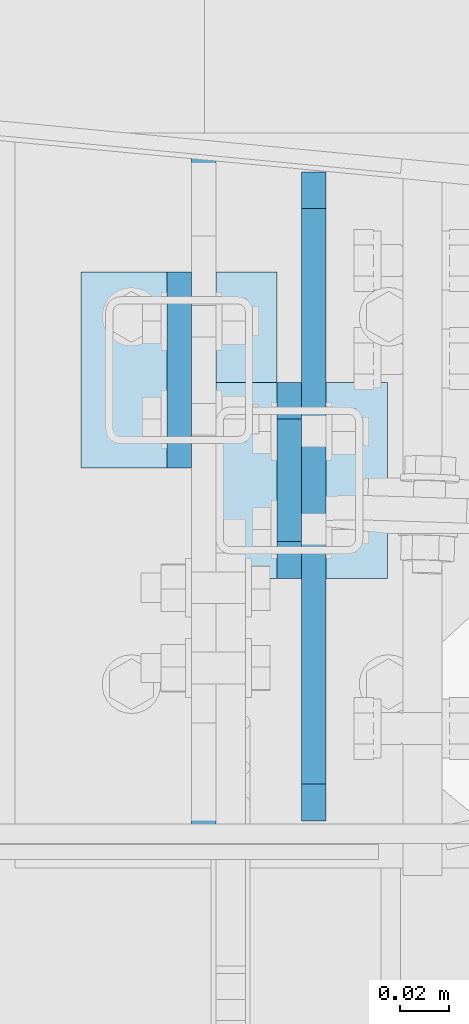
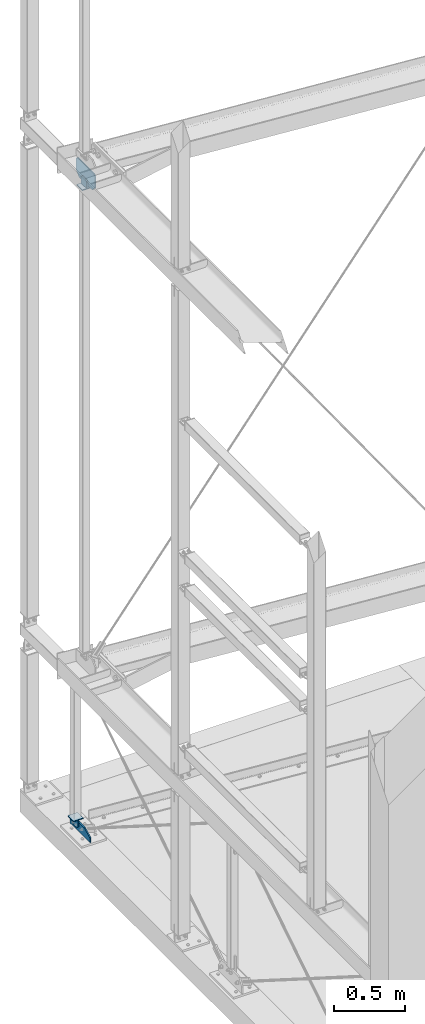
# One storey, part 140 of 271: 6 plates, 4 elements without a shape of their own.
"""IFC2X3 building model written with IfcOpenShell, lengths in millimetres."""

from ifc_helpers import new_model, si_unit, frame, origin_with_axes, place, context, subcontext, project, spatial, polyline, outline, extrude, material, type_object, element, aggregate, save


model = new_model("IFC2X3")

# Units and contexts
model_context = context("Model", 3, precision=1e-05, world=origin_with_axes())
body_context = subcontext(model_context, "Body", "Model", "MODEL_VIEW")
ifc_project = project(units=[si_unit("LENGTHUNIT", "METRE", prefix="MILLI"), si_unit("AREAUNIT", "SQUARE_METRE"), si_unit("VOLUMEUNIT", "CUBIC_METRE"), si_unit("MASSUNIT", "GRAM", prefix="KILO"), si_unit("TIMEUNIT", "SECOND"), si_unit("PLANEANGLEUNIT", "RADIAN"), si_unit("SOLIDANGLEUNIT", "STERADIAN"), si_unit("THERMODYNAMICTEMPERATUREUNIT", "DEGREE_CELSIUS"), si_unit("LUMINOUSINTENSITYUNIT", "LUMEN")], contexts=[model_context])

# Site, building, storey
site_placement = place(None, origin_with_axes())
site = spatial("IfcSite", under=ifc_project, at=site_placement, Name="Undefined", CompositionType="ELEMENT")
building_placement = place(site_placement, origin_with_axes())
building = spatial("IfcBuilding", under=site, at=building_placement, Name="Undefined", CompositionType="ELEMENT")
storey_placement = place(building_placement, origin_with_axes())
storey = spatial("IfcBuildingStorey", under=building, at=storey_placement, Name="Undefined", CompositionType="ELEMENT", Elevation=0.0)

# Assembly, plate
assembly_1_placement = place(storey_placement, origin_with_axes())
assembly_1 = element("IfcElementAssembly", 1, at=assembly_1_placement, inside=storey, AssemblyPlace="NOTDEFINED", PredefinedType="RIGID_FRAME")
ifc_material = material(Name="STEEL/S355JR")
plate_type_1 = type_object("IfcPlateType", Name="BL10*70", PredefinedType="NOTDEFINED")
plate_1_placement = place(assembly_1_placement, frame((122.999999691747, 4252.19355050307, 5566.04999995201), z_axis=(-1.0, 0.0, 1.38777878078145e-17), x_axis=(0.0, 0.707106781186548, 0.707106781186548)))
plate_1 = element("IfcPlate", 2, at=plate_1_placement, type_object=plate_type_1, material=ifc_material, Name="BLACHA", ObjectType="BL10*70", context=body_context, shape_type="SweptSolid", body=[
    extrude(outline(polyline([(0.0, 0.0), (21.2132034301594, 1.09139364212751e-11), (56.5685424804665, 35.3553390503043), (56.568542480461, 56.5685424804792), (17.6776695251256, 95.4594192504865), (-38.890872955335, 38.8908729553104), (0.0, 0.0)])), frame((0.0, 0.0, -5.0), z_axis=(0.0, 0.0, 1.0), x_axis=(1.0, 0.0, 0.0)), (0.0, 0.0, 1.0), 10.0),
])

assembly_2_placement = place(storey_placement, origin_with_axes())
assembly_2 = element("IfcElementAssembly", 3, at=assembly_2_placement, inside=storey, AssemblyPlace="NOTDEFINED", PredefinedType="RIGID_FRAME")
plate_2_placement = place(assembly_2_placement, frame((77.9999996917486, 4377.19355050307, 45.0000000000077), z_axis=(-1.0, 0.0, 1.38777878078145e-17), x_axis=(0.0, -0.707106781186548, -0.707106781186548)))
plate_2 = element("IfcPlate", 4, at=plate_2_placement, type_object=plate_type_1, material=ifc_material, Name="BLACHA", ObjectType="BL10*70", context=body_context, shape_type="SweptSolid", body=[
    extrude(outline(polyline([(0.0, 0.0), (21.2132034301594, 1.09139364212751e-11), (56.5685424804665, 35.3553390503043), (56.568542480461, 56.5685424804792), (17.6776695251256, 95.4594192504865), (-38.890872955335, 38.8908729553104), (0.0, 0.0)])), frame((0.0, 0.0, -5.0), z_axis=(0.0, 0.0, 1.0), x_axis=(1.0, 0.0, 0.0)), (0.0, 0.0, 1.0), 10.0),
])

# Plate
plate_type_2 = type_object("IfcPlateType", Name="BL8*80", PredefinedType="NOTDEFINED")
plate_3_placement = place(assembly_1_placement, frame((162.999999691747, 4252.19355050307, 5507.04999995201), z_axis=(0.0, 0.0, 1.0), x_axis=(0.0, 1.0, 0.0)))
plate_3 = element("IfcPlate", 5, at=plate_3_placement, type_object=plate_type_2, material=ifc_material, Name="BLACHA", ObjectType="BL8*80", context=body_context, shape_type="SweptSolid", body=[
    extrude(outline(polyline([(0.0, 0.0), (80.0, 0.0), (80.0, 80.0), (0.0, 80.0), (0.0, 0.0)])), frame((0.0, 0.0, -4.0), z_axis=(0.0, 0.0, 1.0), x_axis=(1.0, 0.0, 0.0)), (0.0, 0.0, 1.0), 8.0),
])

aggregate(assembly_1, [plate_3, plate_1])

plate_4_placement = place(assembly_2_placement, frame((117.999999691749, 4377.19355050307, 104.000000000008), z_axis=(0.0, 0.0, -1.0), x_axis=(0.0, -1.0, 0.0)))
plate_4 = element("IfcPlate", 6, at=plate_4_placement, type_object=plate_type_2, material=ifc_material, Name="BLACHA", ObjectType="BL8*80", context=body_context, shape_type="SweptSolid", body=[
    extrude(outline(polyline([(0.0, 0.0), (80.0, 0.0), (80.0, 80.0), (0.0, 80.0), (0.0, 0.0)])), frame((0.0, 0.0, -4.0), z_axis=(0.0, 0.0, 1.0), x_axis=(1.0, 0.0, 0.0)), (0.0, 0.0, 1.0), 8.0),
])

aggregate(assembly_2, [plate_4, plate_2])

# Assembly, plate
assembly_3_placement = place(storey_placement, origin_with_axes())
assembly_3 = element("IfcElementAssembly", 7, at=assembly_3_placement, inside=storey, AssemblyPlace="NOTDEFINED", PredefinedType="RIGID_FRAME")
plate_type_3 = type_object("IfcPlateType", Name="BL10*80", PredefinedType="NOTDEFINED")
plate_5_placement = place(assembly_3_placement, frame((87.9999996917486, 4424.19355050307, 7.73070496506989e-12), z_axis=(-1.0, 0.0, 1.38777878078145e-17), x_axis=(0.0, -1.0, 0.0)))
plate_5 = element("IfcPlate", 8, at=plate_5_placement, type_object=plate_type_3, material=ifc_material, Name="BLACHA", ObjectType="BL10*80", context=body_context, shape_type="SweptSolid", body=[
    extrude(outline(polyline([(0.0, 0.0), (280.0, 0.0), (280.0, 40.0000000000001), (200.0, 80.0), (40.0, 80.0), (-2.52953213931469e-12, 50.0), (0.0, 0.0)])), frame((0.0, 0.0, -5.0), z_axis=(0.0, 0.0, 1.0), x_axis=(1.0, 0.0, 0.0)), (0.0, 0.0, 1.0), 10.0),
])
aggregate(assembly_3, [plate_5])

assembly_4_placement = place(storey_placement, origin_with_axes())
assembly_4 = element("IfcElementAssembly", 9, at=assembly_4_placement, inside=storey, AssemblyPlace="NOTDEFINED", PredefinedType="RIGID_FRAME")
plate_type_4 = type_object("IfcPlateType", Name="BL10*150", PredefinedType="NOTDEFINED")
plate_6_placement = place(assembly_4_placement, frame((132.999999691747, 4153.19355050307, 5681.04999995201), z_axis=(-1.0, 0.0, 1.38777878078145e-17), x_axis=(0.0, 1.0, 0.0)))
plate_6 = element("IfcPlate", 10, at=plate_6_placement, type_object=plate_type_4, material=ifc_material, Name="BLACHA", ObjectType="BL10*150", context=body_context, shape_type="SweptSolid", body=[
    extrude(outline(polyline([(0.0, 15.0), (15.0, -1.59872115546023e-14), (250.0, -1.4210854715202e-14), (265.0, 15.0), (265.0, 110.0), (225.0, 150.0), (40.0, 150.0), (0.0, 110.0), (0.0, 15.0)])), frame((0.0, 0.0, -5.0), z_axis=(0.0, 0.0, 1.0), x_axis=(1.0, 0.0, 0.0)), (0.0, 0.0, 1.0), 10.0),
])
aggregate(assembly_4, [plate_6])

save(model, "model.ifc")
